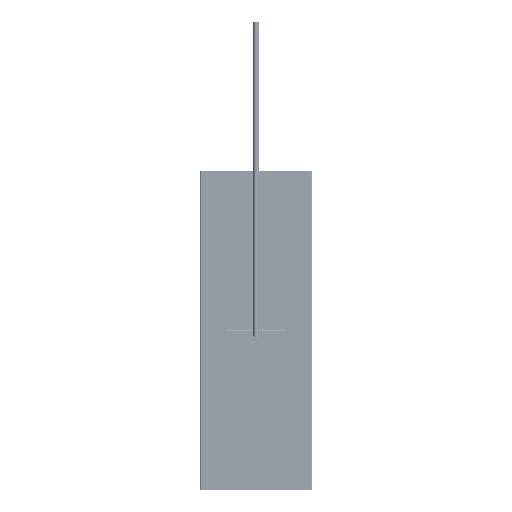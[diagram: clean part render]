
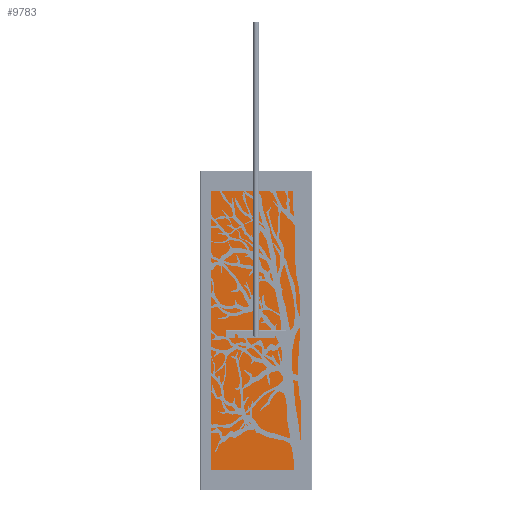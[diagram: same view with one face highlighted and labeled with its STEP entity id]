
A CAD part, front view. The second image highlights one B-rep face of the part: STEP entity #9783.
In plain terms, the highlighted planar face has unit normal (0, -1, 0) as drawn and (0, 1, 0) by its records, which use the part's own axes.
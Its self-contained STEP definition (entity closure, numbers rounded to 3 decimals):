
#9783 = ADVANCED_FACE( '', ( #22861 ), #22862, .T. );
#22861 = FACE_OUTER_BOUND( '', #39850, .T. );
#22862 = PLANE( '', #39851 );
#39850 = EDGE_LOOP( '', ( #73802, #73803, #73804, #73805 ) );
#39851 = AXIS2_PLACEMENT_3D( '', #73806, #73807, #73808 );
#73802 = ORIENTED_EDGE( '', *, *, #128514, .T. );
#73803 = ORIENTED_EDGE( '', *, *, #128515, .T. );
#73804 = ORIENTED_EDGE( '', *, *, #123300, .T. );
#73805 = ORIENTED_EDGE( '', *, *, #128516, .T. );
#73806 = CARTESIAN_POINT( '', ( -270., 5., 750. ) );
#73807 = DIRECTION( '', ( 0., 1., 0. ) );
#73808 = DIRECTION( '', ( 0., 0., 1. ) );
#123300 = EDGE_CURVE( '', #158141, #158142, #158143, .T. );
#128514 = EDGE_CURVE( '', #166595, #166596, #166597, .T. );
#128515 = EDGE_CURVE( '', #166596, #158141, #166598, .T. );
#128516 = EDGE_CURVE( '', #158142, #166595, #166599, .T. );
#158141 = VERTEX_POINT( '', #236661 );
#158142 = VERTEX_POINT( '', #236662 );
#158143 = LINE( '', #236663, #236664 );
#166595 = VERTEX_POINT( '', #249351 );
#166596 = VERTEX_POINT( '', #249352 );
#166597 = LINE( '', #249353, #249354 );
#166598 = LINE( '', #249355, #249356 );
#166599 = LINE( '', #249357, #249358 );
#236661 = CARTESIAN_POINT( '', ( 270., 5., 750. ) );
#236662 = CARTESIAN_POINT( '', ( 270., 5., -750. ) );
#236663 = CARTESIAN_POINT( '', ( 270., 5., 750. ) );
#236664 = VECTOR( '', #288525, 1000. );
#249351 = CARTESIAN_POINT( '', ( -270., 5., -750. ) );
#249352 = CARTESIAN_POINT( '', ( -270., 5., 750. ) );
#249353 = CARTESIAN_POINT( '', ( -270., 5., -750. ) );
#249354 = VECTOR( '', #292839, 1000. );
#249355 = CARTESIAN_POINT( '', ( -270., 5., 750. ) );
#249356 = VECTOR( '', #292840, 1000. );
#249357 = CARTESIAN_POINT( '', ( 270., 5., -750. ) );
#249358 = VECTOR( '', #292841, 1000. );
#288525 = DIRECTION( '', ( 0., 0., -1. ) );
#292839 = DIRECTION( '', ( 0., 0., 1. ) );
#292840 = DIRECTION( '', ( 1., 0., 0. ) );
#292841 = DIRECTION( '', ( -1., 0., 0. ) );
